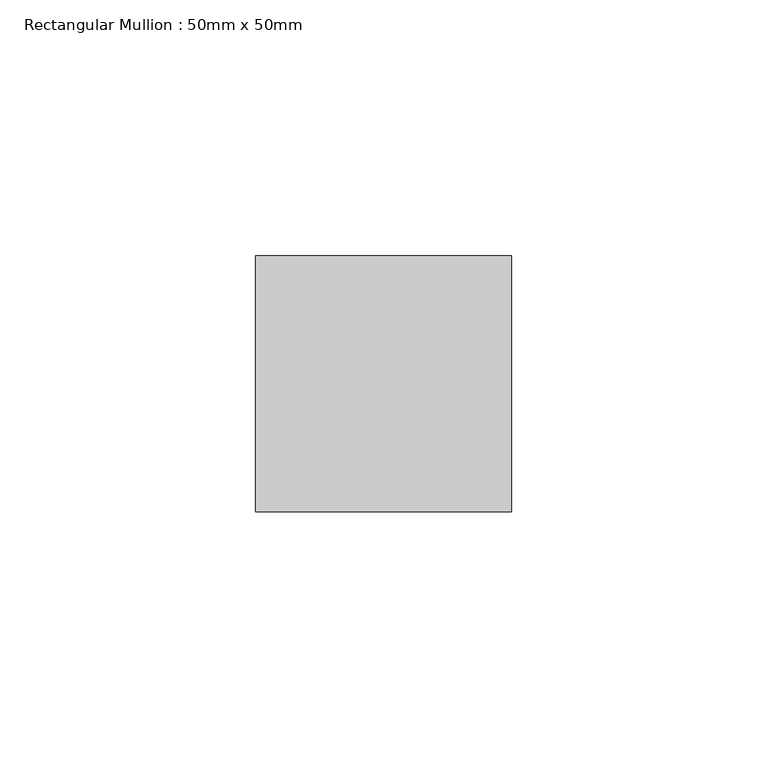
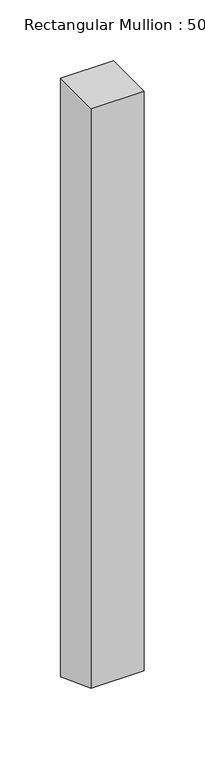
"""IFC4 building model written with IfcOpenShell, lengths in millimetres: member geometry, Rectangular Mullion : 50mm x 50mm."""

from ifc_helpers import new_model, si_unit, frame, origin, place, context, project, spatial, polyline, outline, extrude, source, transform, mapped, element, save


def rectangular_mullion_50mm_x_50mm_c9d96383(model_context):
    return source(origin(), model_context, "Body", "SweptSolid", [
        extrude(outline(polyline([(-25.0, 0.0), (25.0, 0.0), (25.0, -599.3435582), (-25.0, -580.6564418), (-25.0, 0.0)])), frame((-50.0, 0.0, 0.0), z_axis=(1.0, 0.0, 0.0), x_axis=(0.0, 1.0, 0.0)), (0.0, 0.0, 1.0), 50.0),
    ])


if __name__ == "__main__":
    model = new_model("IFC4")
    model_context = context("Model", 3, world=origin())
    ifc_project = project(units=[si_unit("LENGTHUNIT", "METRE", prefix="MILLI")], contexts=[model_context])
    site = spatial("IfcSite", under=ifc_project)
    building = spatial("IfcBuilding", under=site)
    placement = place(None, origin())
    rectangular_mullion_50mm_x_50mm_shape = rectangular_mullion_50mm_x_50mm_c9d96383(model_context)
    element("IfcMember", 1, ObjectType="Rectangular Mullion : 50mm x 50mm", at=placement, inside=building, context=model_context, shape_type="MappedRepresentation", body=[
        mapped(rectangular_mullion_50mm_x_50mm_shape, transform((0.0, 0.0, 0.0), x_axis=(1.0, 0.0, 0.0), y_axis=(0.0, 1.0, 0.0), z_axis=(0.0, 0.0, 1.0))),
    ])
    save(model, "model.ifc")
